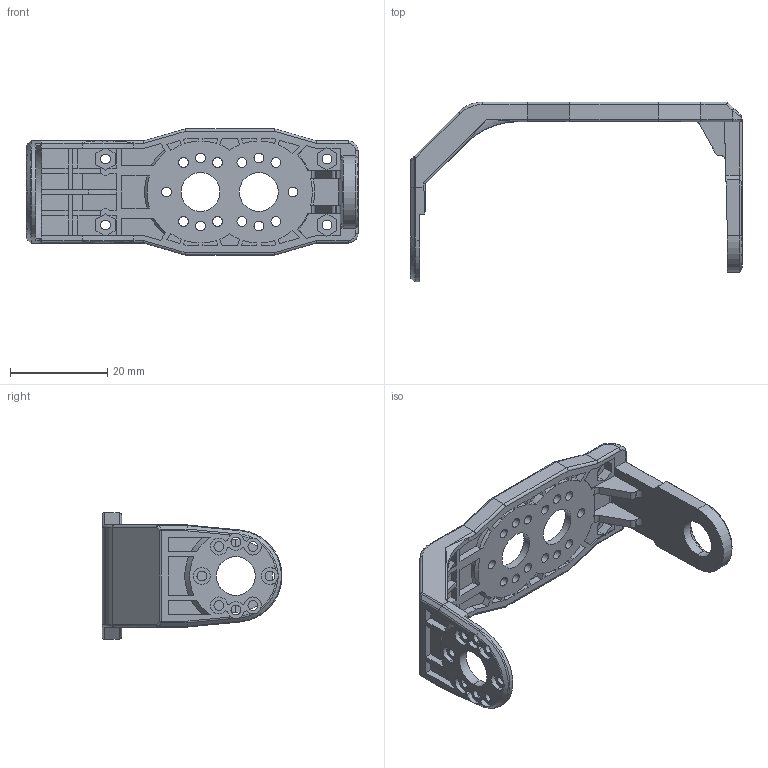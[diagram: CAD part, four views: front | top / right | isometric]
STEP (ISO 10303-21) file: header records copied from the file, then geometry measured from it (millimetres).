
FILE_DESCRIPTION((''),'2;1');
FILE_NAME('HF_U_BRACKET','2011-03-07T',('Administrator'),(''),'PRO/ENGINEER BY PARAMETRIC TECHNOLOGY CORPORATION, 2010330','PRO/ENGINEER BY PARAMETRIC TECHNOLOGY CORPORATION, 2010330','');
FILE_SCHEMA(('CONFIG_CONTROL_DESIGN'));
Length unit declared in the file: millimetre
Products named in the file (1): HF_U_BRACKET
Bounding box: 68.3 x 36.96 x 26 mm (x, y, z)
Volume: 5915.2 mm3; surface area: 7532.7 mm2
Topology: 1 solids, 1 shells, 550 faces, 1448 edges, 928 vertices
Faces by surface type: plane 343, cylinder 170, cone 16, torus 9, bspline 8, sphere 4
Entity records: 17665 total; most frequent: CARTESIAN_POINT 3918, ORIENTED_EDGE 2892, DIRECTION 2732, EDGE_CURVE 1446, VECTOR 1026, LINE 1026, VERTEX_POINT 928, AXIS2_PLACEMENT_3D 853
